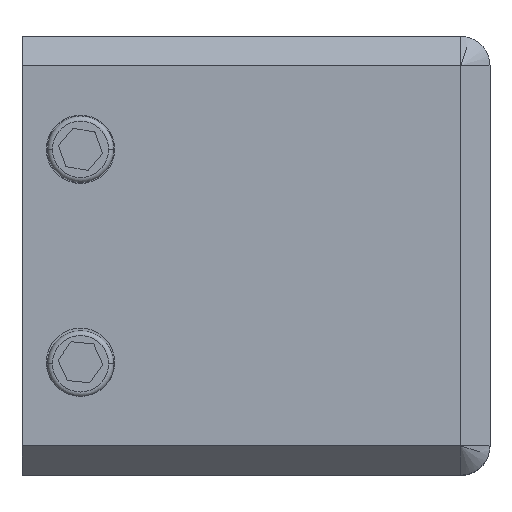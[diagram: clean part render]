
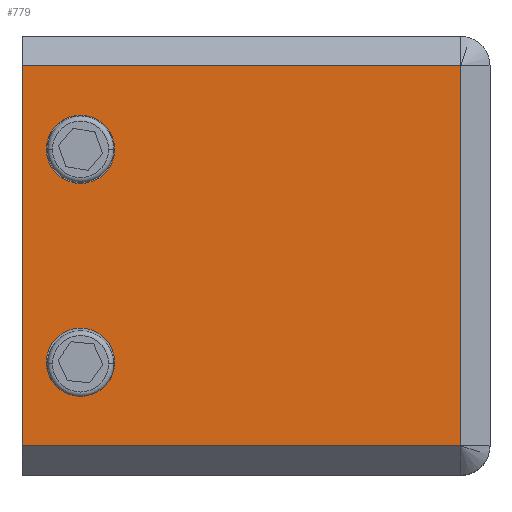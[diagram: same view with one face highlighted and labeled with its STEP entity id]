
A CAD part, top view. The second image highlights one B-rep face of the part: STEP entity #779.
In plain terms, the highlighted planar face has unit normal (0, 0, 1).
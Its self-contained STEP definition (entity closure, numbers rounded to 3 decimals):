
#38 = DIRECTION ( 'NONE',  ( 0., 1., 0. ) ) ;
#151 = FACE_BOUND ( 'NONE', #2622, .T. ) ;
#166 = LINE ( 'NONE', #1070, #1439 ) ;
#220 = EDGE_CURVE ( 'NONE', #345, #479, #1830, .T. ) ;
#345 = VERTEX_POINT ( 'NONE', #468 ) ;
#372 = EDGE_LOOP ( 'NONE', ( #1535, #2989, #1577, #2180 ) ) ;
#439 = PLANE ( 'NONE',  #1399 ) ;
#468 = CARTESIAN_POINT ( 'NONE',  ( -48., -19.5, 13.5 ) ) ;
#479 = VERTEX_POINT ( 'NONE', #1428 ) ;
#532 = DIRECTION ( 'NONE',  ( 0., 0., 1. ) ) ;
#581 = EDGE_CURVE ( 'NONE', #637, #1236, #1197, .T. ) ;
#626 = DIRECTION ( 'NONE',  ( 1., 0., 0. ) ) ;
#637 = VERTEX_POINT ( 'NONE', #3785 ) ;
#657 = AXIS2_PLACEMENT_3D ( 'NONE', #2099, #1772, #1732 ) ;
#675 = CARTESIAN_POINT ( 'NONE',  ( -42., -10.919, 13.5 ) ) ;
#688 = EDGE_CURVE ( 'NONE', #1236, #637, #1003, .T. ) ;
#769 = CARTESIAN_POINT ( 'NONE',  ( -38.5, 10.919, 13.5 ) ) ;
#779 = ADVANCED_FACE ( 'NONE', ( #151, #1676, #3532 ), #439, .T. ) ;
#987 = LINE ( 'NONE', #1668, #1464 ) ;
#1003 = CIRCLE ( 'NONE', #1065, 3.5 ) ;
#1065 = AXIS2_PLACEMENT_3D ( 'NONE', #675, #2251, #3495 ) ;
#1070 = CARTESIAN_POINT ( 'NONE',  ( -48., 19.5, 13.5 ) ) ;
#1078 = EDGE_CURVE ( 'NONE', #3580, #2416, #987, .T. ) ;
#1165 = CIRCLE ( 'NONE', #3266, 3.5 ) ;
#1197 = CIRCLE ( 'NONE', #1727, 3.5 ) ;
#1236 = VERTEX_POINT ( 'NONE', #1730 ) ;
#1299 = ORIENTED_EDGE ( 'NONE', *, *, #581, .F. ) ;
#1342 = ORIENTED_EDGE ( 'NONE', *, *, #3396, .F. ) ;
#1399 = AXIS2_PLACEMENT_3D ( 'NONE', #3271, #2935, #3250 ) ;
#1428 = CARTESIAN_POINT ( 'NONE',  ( -48., 19.5, 13.5 ) ) ;
#1439 = VECTOR ( 'NONE', #2914, 1000. ) ;
#1464 = VECTOR ( 'NONE', #38, 1000. ) ;
#1535 = ORIENTED_EDGE ( 'NONE', *, *, #220, .F. ) ;
#1577 = ORIENTED_EDGE ( 'NONE', *, *, #1078, .T. ) ;
#1642 = DIRECTION ( 'NONE',  ( 0., 0., 1. ) ) ;
#1668 = CARTESIAN_POINT ( 'NONE',  ( -3., 19.5, 13.5 ) ) ;
#1676 = FACE_BOUND ( 'NONE', #3171, .T. ) ;
#1727 = AXIS2_PLACEMENT_3D ( 'NONE', #2731, #532, #1785 ) ;
#1730 = CARTESIAN_POINT ( 'NONE',  ( -38.5, -10.919, 13.5 ) ) ;
#1732 = DIRECTION ( 'NONE',  ( 1., 0., 0. ) ) ;
#1772 = DIRECTION ( 'NONE',  ( 0., 0., 1. ) ) ;
#1785 = DIRECTION ( 'NONE',  ( 1., 0., 0. ) ) ;
#1830 = LINE ( 'NONE', #2735, #3821 ) ;
#1863 = VERTEX_POINT ( 'NONE', #769 ) ;
#2033 = LINE ( 'NONE', #2425, #3034 ) ;
#2099 = CARTESIAN_POINT ( 'NONE',  ( -42., 10.919, 13.5 ) ) ;
#2101 = CIRCLE ( 'NONE', #657, 3.5 ) ;
#2180 = ORIENTED_EDGE ( 'NONE', *, *, #2926, .T. ) ;
#2251 = DIRECTION ( 'NONE',  ( 0., 0., 1. ) ) ;
#2303 = CARTESIAN_POINT ( 'NONE',  ( -45.5, 10.919, 13.5 ) ) ;
#2395 = EDGE_CURVE ( 'NONE', #2925, #1863, #1165, .T. ) ;
#2416 = VERTEX_POINT ( 'NONE', #2882 ) ;
#2425 = CARTESIAN_POINT ( 'NONE',  ( -3., -19.5, 13.5 ) ) ;
#2492 = CARTESIAN_POINT ( 'NONE',  ( -3., -19.5, 13.5 ) ) ;
#2622 = EDGE_LOOP ( 'NONE', ( #1342, #2795 ) ) ;
#2731 = CARTESIAN_POINT ( 'NONE',  ( -42., -10.919, 13.5 ) ) ;
#2735 = CARTESIAN_POINT ( 'NONE',  ( -48., -39., 13.5 ) ) ;
#2795 = ORIENTED_EDGE ( 'NONE', *, *, #2395, .F. ) ;
#2882 = CARTESIAN_POINT ( 'NONE',  ( -3., 19.5, 13.5 ) ) ;
#2914 = DIRECTION ( 'NONE',  ( -1., 0., 0. ) ) ;
#2925 = VERTEX_POINT ( 'NONE', #2303 ) ;
#2926 = EDGE_CURVE ( 'NONE', #2416, #479, #166, .T. ) ;
#2935 = DIRECTION ( 'NONE',  ( 0., 0., 1. ) ) ;
#2989 = ORIENTED_EDGE ( 'NONE', *, *, #3812, .T. ) ;
#3034 = VECTOR ( 'NONE', #3581, 1000. ) ;
#3171 = EDGE_LOOP ( 'NONE', ( #3830, #1299 ) ) ;
#3250 = DIRECTION ( 'NONE',  ( 1., 0., 0. ) ) ;
#3266 = AXIS2_PLACEMENT_3D ( 'NONE', #3467, #1642, #626 ) ;
#3271 = CARTESIAN_POINT ( 'NONE',  ( 0., 0., 13.5 ) ) ;
#3396 = EDGE_CURVE ( 'NONE', #1863, #2925, #2101, .T. ) ;
#3467 = CARTESIAN_POINT ( 'NONE',  ( -42., 10.919, 13.5 ) ) ;
#3495 = DIRECTION ( 'NONE',  ( 1., 0., 0. ) ) ;
#3532 = FACE_OUTER_BOUND ( 'NONE', #372, .T. ) ;
#3580 = VERTEX_POINT ( 'NONE', #2492 ) ;
#3581 = DIRECTION ( 'NONE',  ( 1., 0., 0. ) ) ;
#3785 = CARTESIAN_POINT ( 'NONE',  ( -45.5, -10.919, 13.5 ) ) ;
#3812 = EDGE_CURVE ( 'NONE', #345, #3580, #2033, .T. ) ;
#3821 = VECTOR ( 'NONE', #3985, 1000. ) ;
#3830 = ORIENTED_EDGE ( 'NONE', *, *, #688, .F. ) ;
#3985 = DIRECTION ( 'NONE',  ( 0., 1., 0. ) ) ;
